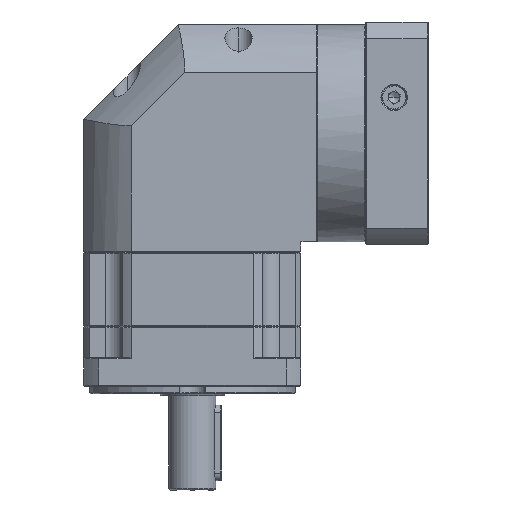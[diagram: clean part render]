
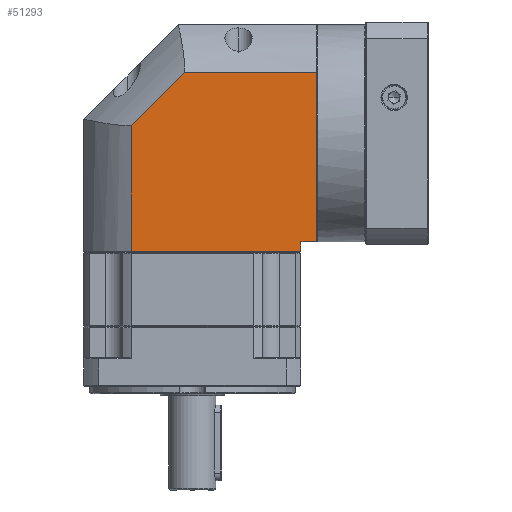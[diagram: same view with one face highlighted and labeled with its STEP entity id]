
A CAD part, front view. The second image highlights one B-rep face of the part: STEP entity #51293.
In plain terms, the highlighted planar face has unit normal (0, -1, 0).
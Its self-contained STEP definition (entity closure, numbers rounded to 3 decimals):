
#6643 = VECTOR ( 'NONE', #18207, 1000. ) ;
#7209 = CARTESIAN_POINT ( 'NONE',  ( 105.715, 12.334, -53.383 ) ) ;
#14049 = DIRECTION ( 'NONE',  ( -1., 0., 0. ) ) ;
#17318 = ORIENTED_EDGE ( 'NONE', *, *, #87896, .F. ) ;
#18207 = DIRECTION ( 'NONE',  ( 0.707, 0., 0.707 ) ) ;
#20307 = VERTEX_POINT ( 'NONE', #109010 ) ;
#23843 = VERTEX_POINT ( 'NONE', #119870 ) ;
#24247 = EDGE_CURVE ( 'NONE', #133575, #20307, #129151, .T. ) ;
#27474 = FACE_OUTER_BOUND ( 'NONE', #45900, .T. ) ;
#27529 = ORIENTED_EDGE ( 'NONE', *, *, #39574, .F. ) ;
#29853 = LINE ( 'NONE', #70738, #6643 ) ;
#31725 = ORIENTED_EDGE ( 'NONE', *, *, #93994, .F. ) ;
#32957 = DIRECTION ( 'NONE',  ( 0., 1., 0. ) ) ;
#36821 = CARTESIAN_POINT ( 'NONE',  ( 15.816, 12.334, -53.383 ) ) ;
#37569 = LINE ( 'NONE', #54850, #100874 ) ;
#39574 = EDGE_CURVE ( 'NONE', #75527, #133575, #37569, .T. ) ;
#45900 = EDGE_LOOP ( 'NONE', ( #57449, #55423, #46789, #27529, #98704, #31725, #17318 ) ) ;
#46789 = ORIENTED_EDGE ( 'NONE', *, *, #24247, .F. ) ;
#49065 = DIRECTION ( 'NONE',  ( 0., 0., -1. ) ) ;
#49532 = VECTOR ( 'NONE', #49065, 1000. ) ;
#49706 = AXIS2_PLACEMENT_3D ( 'NONE', #76254, #32957, #128909 ) ;
#51293 = ADVANCED_FACE ( 'NONE', ( #27474 ), #54924, .F. ) ;
#51909 = VERTEX_POINT ( 'NONE', #64416 ) ;
#54850 = CARTESIAN_POINT ( 'NONE',  ( -9.285, 12.334, 48.016 ) ) ;
#54924 = PLANE ( 'NONE',  #49706 ) ;
#55423 = ORIENTED_EDGE ( 'NONE', *, *, #120531, .F. ) ;
#57449 = ORIENTED_EDGE ( 'NONE', *, *, #96288, .F. ) ;
#62706 = VERTEX_POINT ( 'NONE', #73977 ) ;
#64416 = CARTESIAN_POINT ( 'NONE',  ( 105.715, 12.334, -46.883 ) ) ;
#66296 = EDGE_CURVE ( 'NONE', #86370, #75527, #29853, .T. ) ;
#66409 = DIRECTION ( 'NONE',  ( 1., 0., 0. ) ) ;
#67171 = LINE ( 'NONE', #36821, #83881 ) ;
#67523 = VECTOR ( 'NONE', #87640, 1000. ) ;
#70738 = CARTESIAN_POINT ( 'NONE',  ( 15.816, 12.334, 19.678 ) ) ;
#73977 = CARTESIAN_POINT ( 'NONE',  ( 105.715, 12.334, -41.883 ) ) ;
#74969 = CARTESIAN_POINT ( 'NONE',  ( 114.115, 12.334, 48.016 ) ) ;
#75527 = VERTEX_POINT ( 'NONE', #109368 ) ;
#76254 = CARTESIAN_POINT ( 'NONE',  ( -9.285, 12.334, -53.383 ) ) ;
#81117 = LINE ( 'NONE', #7209, #49532 ) ;
#83881 = VECTOR ( 'NONE', #109522, 1000. ) ;
#86370 = VERTEX_POINT ( 'NONE', #92858 ) ;
#87640 = DIRECTION ( 'NONE',  ( 0., 0., -1. ) ) ;
#87896 = EDGE_CURVE ( 'NONE', #51909, #23843, #135965, .T. ) ;
#88996 = CARTESIAN_POINT ( 'NONE',  ( 114.115, 12.334, -53.383 ) ) ;
#92858 = CARTESIAN_POINT ( 'NONE',  ( 15.816, 12.334, 19.678 ) ) ;
#93994 = EDGE_CURVE ( 'NONE', #23843, #86370, #67171, .T. ) ;
#96288 = EDGE_CURVE ( 'NONE', #62706, #51909, #81117, .T. ) ;
#98704 = ORIENTED_EDGE ( 'NONE', *, *, #66296, .F. ) ;
#100874 = VECTOR ( 'NONE', #66409, 1000. ) ;
#107610 = VECTOR ( 'NONE', #115113, 1000. ) ;
#109010 = CARTESIAN_POINT ( 'NONE',  ( 114.115, 12.334, -41.883 ) ) ;
#109368 = CARTESIAN_POINT ( 'NONE',  ( 44.154, 12.334, 48.016 ) ) ;
#109522 = DIRECTION ( 'NONE',  ( 0., 0., 1. ) ) ;
#110352 = CARTESIAN_POINT ( 'NONE',  ( -9.285, 12.334, -41.883 ) ) ;
#115113 = DIRECTION ( 'NONE',  ( -1., 0., 0. ) ) ;
#119870 = CARTESIAN_POINT ( 'NONE',  ( 15.816, 12.334, -46.883 ) ) ;
#120531 = EDGE_CURVE ( 'NONE', #20307, #62706, #131564, .T. ) ;
#128201 = VECTOR ( 'NONE', #14049, 1000. ) ;
#128909 = DIRECTION ( 'NONE',  ( 1., 0., 0. ) ) ;
#129151 = LINE ( 'NONE', #88996, #67523 ) ;
#131564 = LINE ( 'NONE', #110352, #128201 ) ;
#133575 = VERTEX_POINT ( 'NONE', #74969 ) ;
#134741 = CARTESIAN_POINT ( 'NONE',  ( -9.285, 12.334, -46.883 ) ) ;
#135965 = LINE ( 'NONE', #134741, #107610 ) ;
